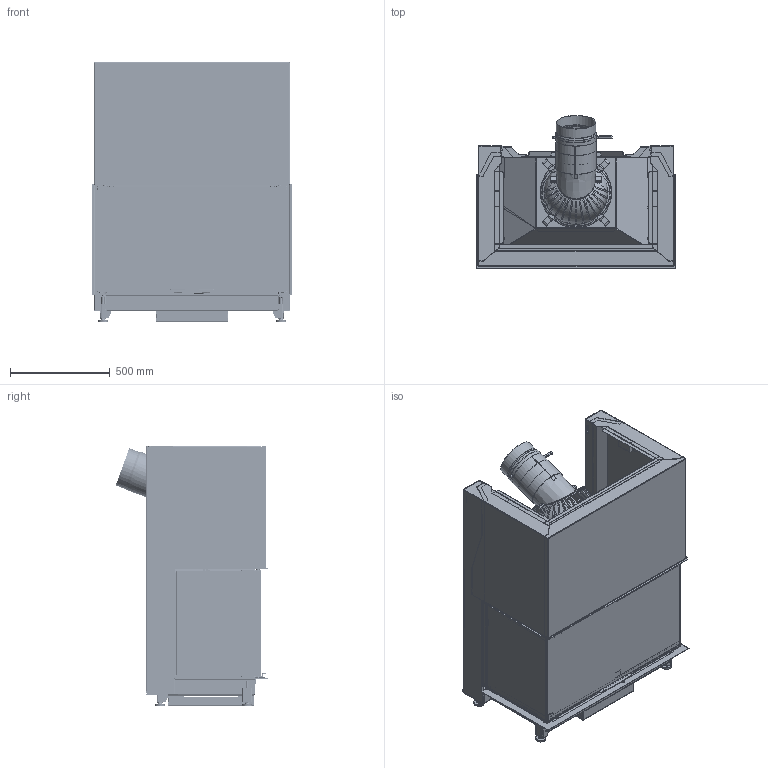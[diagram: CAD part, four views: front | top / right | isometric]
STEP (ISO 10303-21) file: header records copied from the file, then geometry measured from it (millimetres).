
FILE_DESCRIPTION(/* description */ (''),/* implementation_level */ '2;1');
FILE_NAME(/* name */ 'C:\ADSK_DM_WS\CAD_3D\03 Geraete\RIII 55x100x46\Zeichnungen\RIII 55x100x46 Gen.2 ohne Mantel Abgang hinten CAD Planung defriten 2021-03210 211124.stp',/* time_stamp */ '2021-11-24T13:06:58+01:00',/* author */ ('CPI'),/* organization */ (''),/* preprocessor_version */ 'ST-DEVELOPER v18.1',/* originating_system */ 'Autodesk Inventor 2022',/* authorisation */ '');
FILE_SCHEMA (('AUTOMOTIVE_DESIGN { 1 0 10303 214 3 1 1 }'));
Products named in the file (8): 2021-03210; 2021-03201; 2021-03207; 2021-03205; 2021-03203; 2021-03069; 2021-03071; 2018-00985
Assembly tree (7 placements, depth 2):
  2021-03210
    2021-03201
    2021-03207
    2021-03205
    2021-03203
    2021-03069
    2021-03071
    2018-00985
Bounding box: 1000 x 762.77 x 1299 mm (x, y, z)
Volume: 39108739.5 mm3; surface area: 19866673.5 mm2
Topology: 14 solids, 29 shells, 8602 faces, 23852 edges, 15039 vertices
Faces by surface type: plane 5147, cylinder 3026, bspline 274, cone 97, torus 57, sphere 1
Full cylindrical faces by diameter (mm): 3.242 x6, 4.8 x1, 6 x3, 7 x11, 7.9 x2, 8 x8, 10 x10, 10.21 x4, 12 x4, 16 x10, 20 x4, 30 x4, 163 x1, 194 x1, 198 x1, 200 x1, 204 x1, 333 x1, 339 x1
Entity records: 289637 total; most frequent: CARTESIAN_POINT 62073, ORIENTED_EDGE 47638, DIRECTION 46454, EDGE_CURVE 23876, LINE 15874, VECTOR 15874, AXIS2_PLACEMENT_3D 15290, VERTEX_POINT 15035
